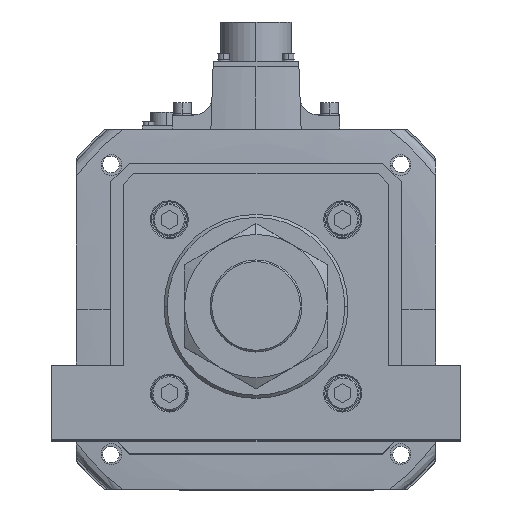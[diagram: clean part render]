
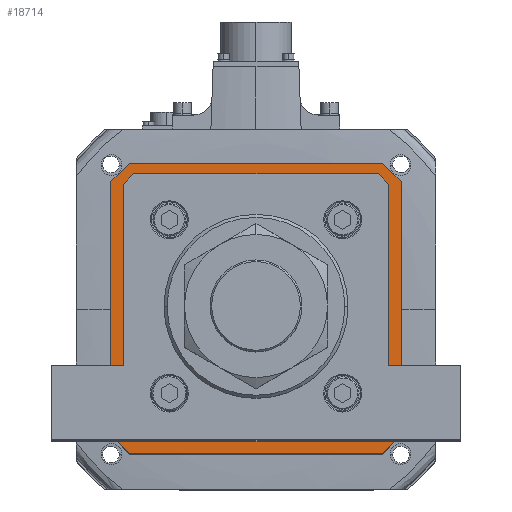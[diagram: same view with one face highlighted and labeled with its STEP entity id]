
A CAD part, top view. The second image highlights one B-rep face of the part: STEP entity #18714.
In plain terms, the highlighted planar face has unit normal (0, 0, 1) as drawn and (0, 0, -1) by its records, which use the part's own axes.
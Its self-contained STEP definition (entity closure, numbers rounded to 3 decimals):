
#454 = VECTOR ( 'NONE', #18243, 1000. ) ;
#982 = CARTESIAN_POINT ( 'NONE',  ( 58.793, 63., 60. ) ) ;
#1372 = CARTESIAN_POINT ( 'NONE',  ( 60.896, 60.896, 60. ) ) ;
#1754 = LINE ( 'NONE', #43689, #11960 ) ;
#2097 = VECTOR ( 'NONE', #11169, 1000. ) ;
#2195 = FACE_OUTER_BOUND ( 'NONE', #32909, .T. ) ;
#2670 = VERTEX_POINT ( 'NONE', #3324 ) ;
#3110 = ORIENTED_EDGE ( 'NONE', *, *, #28109, .T. ) ;
#3273 = EDGE_CURVE ( 'NONE', #14004, #56379, #11994, .T. ) ;
#3324 = CARTESIAN_POINT ( 'NONE',  ( 71., 62., 60. ) ) ;
#4369 = LINE ( 'NONE', #38909, #27493 ) ;
#4616 = ORIENTED_EDGE ( 'NONE', *, *, #36861, .F. ) ;
#4860 = LINE ( 'NONE', #25660, #8939 ) ;
#5892 = EDGE_CURVE ( 'NONE', #21722, #14448, #28608, .T. ) ;
#6589 = VERTEX_POINT ( 'NONE', #53272 ) ;
#6621 = DIRECTION ( 'NONE',  ( 0.707, 0.707, 0. ) ) ;
#7321 = LINE ( 'NONE', #54783, #31108 ) ;
#8493 = CARTESIAN_POINT ( 'NONE',  ( -58.793, 63., 60. ) ) ;
#8939 = VECTOR ( 'NONE', #55594, 1000. ) ;
#9369 = ORIENTED_EDGE ( 'NONE', *, *, #5892, .T. ) ;
#10113 = CARTESIAN_POINT ( 'NONE',  ( -63., -58.793, 60. ) ) ;
#10250 = CARTESIAN_POINT ( 'NONE',  ( 62., 71., 60. ) ) ;
#10433 = CARTESIAN_POINT ( 'NONE',  ( 63., -58.793, 60. ) ) ;
#10780 = VERTEX_POINT ( 'NONE', #52029 ) ;
#11169 = DIRECTION ( 'NONE',  ( 1., 0., 0. ) ) ;
#11743 = VECTOR ( 'NONE', #48316, 1000. ) ;
#11889 = CARTESIAN_POINT ( 'NONE',  ( 63., 58.793, 60. ) ) ;
#11960 = VECTOR ( 'NONE', #52483, 1000. ) ;
#11994 = LINE ( 'NONE', #48201, #454 ) ;
#12030 = VERTEX_POINT ( 'NONE', #25671 ) ;
#12054 = ORIENTED_EDGE ( 'NONE', *, *, #37028, .T. ) ;
#13618 = VECTOR ( 'NONE', #49821, 1000. ) ;
#13764 = ORIENTED_EDGE ( 'NONE', *, *, #49335, .T. ) ;
#14004 = VERTEX_POINT ( 'NONE', #10433 ) ;
#14448 = VERTEX_POINT ( 'NONE', #52922 ) ;
#14591 = ORIENTED_EDGE ( 'NONE', *, *, #46223, .T. ) ;
#15938 = LINE ( 'NONE', #1372, #36362 ) ;
#16060 = CARTESIAN_POINT ( 'NONE',  ( -71., 62., 60. ) ) ;
#16919 = CARTESIAN_POINT ( 'NONE',  ( 71., -62., 60. ) ) ;
#17490 = ORIENTED_EDGE ( 'NONE', *, *, #51988, .F. ) ;
#18072 = DIRECTION ( 'NONE',  ( -0.707, 0.707, 0. ) ) ;
#18157 = EDGE_CURVE ( 'NONE', #54045, #54371, #47211, .T. ) ;
#18232 = ORIENTED_EDGE ( 'NONE', *, *, #22665, .T. ) ;
#18243 = DIRECTION ( 'NONE',  ( 0., 1., 0. ) ) ;
#18714 = ADVANCED_FACE ( 'NONE', ( #52624, #2195 ), #32796, .F. ) ;
#19330 = DIRECTION ( 'NONE',  ( -0.707, 0.707, 0. ) ) ;
#19857 = VECTOR ( 'NONE', #55521, 1000. ) ;
#21503 = EDGE_LOOP ( 'NONE', ( #52225, #50787, #18232, #9369, #26318, #52016, #41420, #3110 ) ) ;
#21585 = ORIENTED_EDGE ( 'NONE', *, *, #32104, .F. ) ;
#21722 = VERTEX_POINT ( 'NONE', #22225 ) ;
#21783 = LINE ( 'NONE', #54363, #13618 ) ;
#21894 = LINE ( 'NONE', #34526, #19857 ) ;
#22225 = CARTESIAN_POINT ( 'NONE',  ( -58.793, -63., 60. ) ) ;
#22665 = EDGE_CURVE ( 'NONE', #33095, #21722, #4369, .T. ) ;
#23035 = VERTEX_POINT ( 'NONE', #10250 ) ;
#24608 = DIRECTION ( 'NONE',  ( 1., 0., 0. ) ) ;
#25660 = CARTESIAN_POINT ( 'NONE',  ( -71., 71., 60. ) ) ;
#25671 = CARTESIAN_POINT ( 'NONE',  ( -62., -71., 60. ) ) ;
#26318 = ORIENTED_EDGE ( 'NONE', *, *, #53805, .T. ) ;
#26534 = DIRECTION ( 'NONE',  ( 0., 1., 0. ) ) ;
#27406 = ORIENTED_EDGE ( 'NONE', *, *, #30525, .T. ) ;
#27407 = DIRECTION ( 'NONE',  ( -0.707, -0.707, 0. ) ) ;
#27493 = VECTOR ( 'NONE', #56464, 1000. ) ;
#28109 = EDGE_CURVE ( 'NONE', #55601, #54045, #50113, .T. ) ;
#28608 = LINE ( 'NONE', #50983, #2097 ) ;
#28636 = VERTEX_POINT ( 'NONE', #49161 ) ;
#29651 = VECTOR ( 'NONE', #49042, 1000. ) ;
#30525 = EDGE_CURVE ( 'NONE', #23035, #2670, #21894, .T. ) ;
#30640 = EDGE_CURVE ( 'NONE', #53070, #2670, #53279, .T. ) ;
#31108 = VECTOR ( 'NONE', #6621, 1000. ) ;
#31721 = ORIENTED_EDGE ( 'NONE', *, *, #30640, .F. ) ;
#32104 = EDGE_CURVE ( 'NONE', #52113, #10780, #4860, .T. ) ;
#32796 = PLANE ( 'NONE',  #50756 ) ;
#32909 = EDGE_LOOP ( 'NONE', ( #4616, #12054, #21585, #13764, #17490, #27406, #31721, #14591 ) ) ;
#33095 = VERTEX_POINT ( 'NONE', #10113 ) ;
#34526 = CARTESIAN_POINT ( 'NONE',  ( 62., 71., 60. ) ) ;
#34581 = CARTESIAN_POINT ( 'NONE',  ( -71., -71., 60. ) ) ;
#34598 = DIRECTION ( 'NONE',  ( -0.707, -0.707, 0. ) ) ;
#35506 = VECTOR ( 'NONE', #19330, 1000. ) ;
#36362 = VECTOR ( 'NONE', #18072, 1000. ) ;
#36861 = EDGE_CURVE ( 'NONE', #12030, #6589, #40933, .T. ) ;
#37028 = EDGE_CURVE ( 'NONE', #12030, #10780, #47105, .T. ) ;
#38909 = CARTESIAN_POINT ( 'NONE',  ( -60.896, -60.896, 60. ) ) ;
#39131 = DIRECTION ( 'NONE',  ( 1., 0., 0. ) ) ;
#39269 = CARTESIAN_POINT ( 'NONE',  ( 71., 71., 60. ) ) ;
#40933 = LINE ( 'NONE', #34581, #51214 ) ;
#41420 = ORIENTED_EDGE ( 'NONE', *, *, #45877, .T. ) ;
#41663 = VECTOR ( 'NONE', #26534, 1000. ) ;
#42481 = LINE ( 'NONE', #16919, #44524 ) ;
#43689 = CARTESIAN_POINT ( 'NONE',  ( -63., -59., 60. ) ) ;
#43742 = LINE ( 'NONE', #52857, #11743 ) ;
#44197 = CARTESIAN_POINT ( 'NONE',  ( 71., -62., 60. ) ) ;
#44524 = VECTOR ( 'NONE', #34598, 1000. ) ;
#44639 = CARTESIAN_POINT ( 'NONE',  ( -59., 63., 60. ) ) ;
#45223 = EDGE_CURVE ( 'NONE', #54371, #33095, #1754, .T. ) ;
#45441 = CARTESIAN_POINT ( 'NONE',  ( -62., -71., 60. ) ) ;
#45877 = EDGE_CURVE ( 'NONE', #56379, #55601, #15938, .T. ) ;
#46122 = CARTESIAN_POINT ( 'NONE',  ( -63., 58.793, 60. ) ) ;
#46162 = CARTESIAN_POINT ( 'NONE',  ( 0., 0., 60. ) ) ;
#46223 = EDGE_CURVE ( 'NONE', #53070, #6589, #42481, .T. ) ;
#46487 = VECTOR ( 'NONE', #27407, 1000. ) ;
#46542 = DIRECTION ( 'NONE',  ( 0., 0., 1. ) ) ;
#47105 = LINE ( 'NONE', #45441, #35506 ) ;
#47211 = LINE ( 'NONE', #53486, #46487 ) ;
#48201 = CARTESIAN_POINT ( 'NONE',  ( 63., 59., 60. ) ) ;
#48316 = DIRECTION ( 'NONE',  ( 0.707, 0.707, 0. ) ) ;
#49042 = DIRECTION ( 'NONE',  ( -1., 0., 0. ) ) ;
#49161 = CARTESIAN_POINT ( 'NONE',  ( -62., 71., 60. ) ) ;
#49335 = EDGE_CURVE ( 'NONE', #52113, #28636, #43742, .T. ) ;
#49821 = DIRECTION ( 'NONE',  ( -1., 0., 0. ) ) ;
#50113 = LINE ( 'NONE', #44639, #29651 ) ;
#50756 = AXIS2_PLACEMENT_3D ( 'NONE', #46162, #46542, #24608 ) ;
#50787 = ORIENTED_EDGE ( 'NONE', *, *, #45223, .T. ) ;
#50983 = CARTESIAN_POINT ( 'NONE',  ( 59., -63., 60. ) ) ;
#51214 = VECTOR ( 'NONE', #39131, 1000. ) ;
#51988 = EDGE_CURVE ( 'NONE', #23035, #28636, #21783, .T. ) ;
#52016 = ORIENTED_EDGE ( 'NONE', *, *, #3273, .T. ) ;
#52029 = CARTESIAN_POINT ( 'NONE',  ( -71., -62., 60. ) ) ;
#52113 = VERTEX_POINT ( 'NONE', #16060 ) ;
#52225 = ORIENTED_EDGE ( 'NONE', *, *, #18157, .T. ) ;
#52483 = DIRECTION ( 'NONE',  ( 0., -1., 0. ) ) ;
#52624 = FACE_BOUND ( 'NONE', #21503, .T. ) ;
#52857 = CARTESIAN_POINT ( 'NONE',  ( -71., 62., 60. ) ) ;
#52922 = CARTESIAN_POINT ( 'NONE',  ( 58.793, -63., 60. ) ) ;
#53070 = VERTEX_POINT ( 'NONE', #44197 ) ;
#53272 = CARTESIAN_POINT ( 'NONE',  ( 62., -71., 60. ) ) ;
#53279 = LINE ( 'NONE', #39269, #41663 ) ;
#53486 = CARTESIAN_POINT ( 'NONE',  ( -60.896, 60.896, 60. ) ) ;
#53805 = EDGE_CURVE ( 'NONE', #14448, #14004, #7321, .T. ) ;
#54045 = VERTEX_POINT ( 'NONE', #8493 ) ;
#54363 = CARTESIAN_POINT ( 'NONE',  ( -71., 71., 60. ) ) ;
#54371 = VERTEX_POINT ( 'NONE', #46122 ) ;
#54783 = CARTESIAN_POINT ( 'NONE',  ( 60.896, -60.896, 60. ) ) ;
#55521 = DIRECTION ( 'NONE',  ( 0.707, -0.707, 0. ) ) ;
#55594 = DIRECTION ( 'NONE',  ( 0., -1., 0. ) ) ;
#55601 = VERTEX_POINT ( 'NONE', #982 ) ;
#56379 = VERTEX_POINT ( 'NONE', #11889 ) ;
#56464 = DIRECTION ( 'NONE',  ( 0.707, -0.707, 0. ) ) ;
